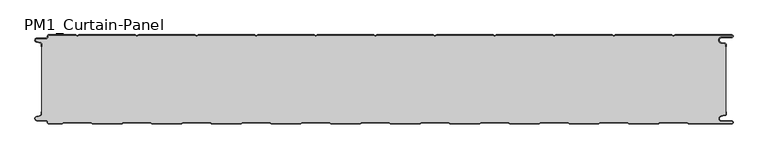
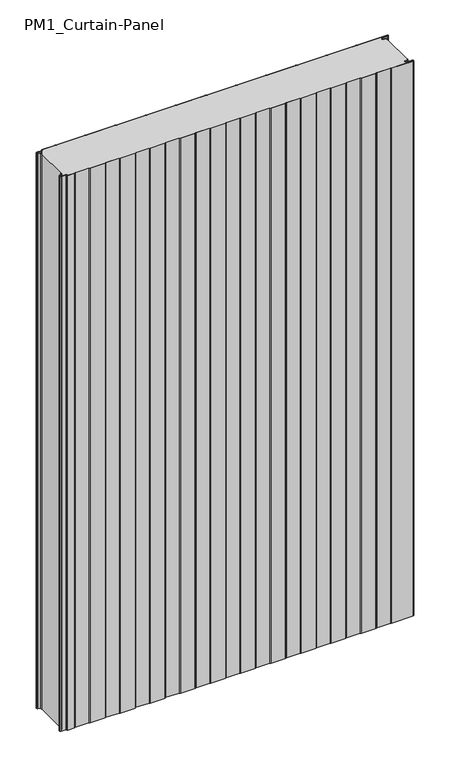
"""IFC4 building model written with IfcOpenShell, lengths in millimetres: plate geometry, PM1_Curtain-Panel : ACH_PM1_Stone-wool-Panel_150M."""

import ifcopenshell
import ifcopenshell.guid

model = None  # the IFC model being written
_history = None  # IfcOwnerHistory: only IFC2X3 demands one
_inside = {}  # id of a spatial element -> (the spatial element, [elements in it])
_under = {}  # id of a project, library or spatial element -> (it, [spatial elements below it])
_declared = {}  # id of a project -> (the project, [libraries it declares])
_typed = {}  # id of a type object -> (the type object, [elements of that type])
_made_of = {}  # id of a material, layer set ... -> (it, [elements and type objects made of it])


def new_model(schema):
    """Start an empty IFC model of exactly this schema.

    Asked for "IFC4X3", IfcOpenShell would pick the latest addendum, in which some entities
    have other attributes; the version numbers below select the first issue.
    IFC2X3 requires an IfcOwnerHistory on every rooted entity: one is made here for all.
    """
    global model, _history
    if schema == "IFC4X3":
        model = ifcopenshell.file(schema_version=(4, 3, 0, 0))
    else:
        model = ifcopenshell.file(schema=schema)
    _inside.clear()
    _under.clear()
    _declared.clear()
    _typed.clear()
    _made_of.clear()
    _history = None
    if model.schema == "IFC2X3":
        org = make("IfcOrganization", Name="unknown")
        user = make(
            "IfcPersonAndOrganization",
            ThePerson=make("IfcPerson", FamilyName="unknown"),
            TheOrganization=org,
        )
        app = make(
            "IfcApplication",
            ApplicationDeveloper=org,
            Version="unknown",
            ApplicationFullName="unknown",
            ApplicationIdentifier="unknown",
        )
        _history = make(
            "IfcOwnerHistory",
            OwningUser=user,
            OwningApplication=app,
            ChangeAction="ADDED",
            CreationDate=0,
        )
    return model


def make(cls, **values):
    """One entity of the class cls with the attributes given. An attribute that is None is left unset."""
    return model.create_entity(
        cls, **{name: value for name, value in values.items() if value is not None}
    )


def rooted(cls, **values):
    """An entity with a GlobalId (a new one), such as an element, a storey or a relation."""
    return make(cls, GlobalId=ifcopenshell.guid.new(), OwnerHistory=_history, **values)


def si_unit(unit_type, name, prefix=None):
    """IfcSIUnit, for example si_unit("LENGTHUNIT", "METRE", prefix="MILLI")."""
    return make("IfcSIUnit", UnitType=unit_type, Prefix=prefix, Name=name)


def assignment(units):
    """IfcUnitAssignment: the units of a project."""
    return None if units is None else make("IfcUnitAssignment", Units=units)


def point(xyz):
    """IfcCartesianPoint."""
    return None if xyz is None else make("IfcCartesianPoint", Coordinates=xyz)


def direction(xyz):
    """IfcDirection."""
    return None if xyz is None else make("IfcDirection", DirectionRatios=xyz)


def frame(location, z_axis=None, x_axis=None):
    """IfcAxis2Placement3D, a coordinate frame: its origin and axes. An axis left out is left unset."""
    return make(
        "IfcAxis2Placement3D",
        Location=point(location),
        Axis=direction(z_axis),
        RefDirection=direction(x_axis),
    )


def frame_2d(location, x_axis=None):
    """IfcAxis2Placement2D, a coordinate frame in the plane: its origin and x axis."""
    return make(
        "IfcAxis2Placement2D", Location=point(location), RefDirection=direction(x_axis)
    )


def origin():
    """The frame at (0, 0, 0) with its axes left unset."""
    return frame((0.0, 0.0, 0.0))


def origin_with_axes():
    """The frame at (0, 0, 0) with the z axis (0, 0, 1) and the x axis (1, 0, 0) written out."""
    return frame((0.0, 0.0, 0.0), z_axis=(0.0, 0.0, 1.0), x_axis=(1.0, 0.0, 0.0))


def place(relative_to, where):
    """IfcLocalPlacement: puts the frame where relative to a parent placement (None: the world)."""
    return make(
        "IfcLocalPlacement", PlacementRelTo=relative_to, RelativePlacement=where
    )


def context(
    kind, dimensions, precision=None, world=None, true_north=None, identifier=None
):
    """IfcGeometricRepresentationContext, for example the 3D "Model" context."""
    return make(
        "IfcGeometricRepresentationContext",
        ContextIdentifier=identifier,
        ContextType=kind,
        CoordinateSpaceDimension=dimensions,
        Precision=precision,
        WorldCoordinateSystem=world,
        TrueNorth=true_north,
    )


def project(units=None, contexts=None):
    """IfcProject with its units and contexts."""
    return rooted(
        "IfcProject",
        Name="project",
        RepresentationContexts=contexts,
        UnitsInContext=assignment(units),
    )


def spatial(cls, under=None, at=None, **own):
    """A site, building, storey or space (cls), placed at a placement, below another one or the project."""
    s = rooted(cls, ObjectPlacement=at, **own)
    if under is not None:
        _under.setdefault(under.id(), (under, []))[1].append(s)
    return s


def polyline(points):
    """IfcPolyline through the points."""
    return make("IfcPolyline", Points=[point(p) for p in points])


def circle_curve(where, radius):
    """IfcCircle in the frame where."""
    return make("IfcCircle", Position=where, Radius=radius)


def trimmed(basis, trim1, trim2, sense, master):
    """IfcTrimmedCurve: the piece of a basis curve between two trims."""
    return make(
        "IfcTrimmedCurve",
        BasisCurve=basis,
        Trim1=trim1,
        Trim2=trim2,
        SenseAgreement=sense,
        MasterRepresentation=master,
    )


def segment(curve, same_sense, transition):
    """IfcCompositeCurveSegment."""
    return make(
        "IfcCompositeCurveSegment",
        Transition=transition,
        SameSense=same_sense,
        ParentCurve=curve,
    )


def composite_curve(segments, self_intersect=None):
    """IfcCompositeCurve: segments joined end to end."""
    return make("IfcCompositeCurve", Segments=segments, SelfIntersect=self_intersect)


def outline(outer, holes=None, kind="AREA"):
    """IfcArbitraryClosedProfileDef: a profile drawn as a closed curve; with holes, ...WithVoids."""
    if holes is None:
        return make("IfcArbitraryClosedProfileDef", ProfileType=kind, OuterCurve=outer)
    return make(
        "IfcArbitraryProfileDefWithVoids",
        ProfileType=kind,
        OuterCurve=outer,
        InnerCurves=holes,
    )


def extrude(swept, where, along, depth):
    """IfcExtrudedAreaSolid: the profile swept, set in the frame where, extruded along a direction by depth."""
    return make(
        "IfcExtrudedAreaSolid",
        SweptArea=swept,
        Position=where,
        ExtrudedDirection=direction(along),
        Depth=depth,
    )


def shape(context_of_items, identifier, shape_type, items):
    """IfcShapeRepresentation: the items that make up one representation, for example the "Body"."""
    return make(
        "IfcShapeRepresentation",
        ContextOfItems=context_of_items,
        RepresentationIdentifier=identifier,
        RepresentationType=shape_type,
        Items=items,
    )


def source(mapping_origin, context_of_items, identifier, shape_type, items):
    """IfcRepresentationMap: a shape defined once, which mapped items show again and again."""
    return make(
        "IfcRepresentationMap",
        MappingOrigin=mapping_origin,
        MappedRepresentation=shape(context_of_items, identifier, shape_type, items),
    )


def transform(
    local_origin,
    x_axis=None,
    y_axis=None,
    z_axis=None,
    scale=None,
    scale2=None,
    scale3=None,
    uniform=True,
):
    """IfcCartesianTransformationOperator3D, or its non-uniform kind. x_axis, y_axis, z_axis: its Axis1, 2, 3."""
    if uniform:
        return make(
            "IfcCartesianTransformationOperator3D",
            Axis1=direction(x_axis),
            Axis2=direction(y_axis),
            LocalOrigin=point(local_origin),
            Scale=scale,
            Axis3=direction(z_axis),
        )
    return make(
        "IfcCartesianTransformationOperator3DnonUniform",
        Axis1=direction(x_axis),
        Axis2=direction(y_axis),
        LocalOrigin=point(local_origin),
        Scale=scale,
        Axis3=direction(z_axis),
        Scale2=scale2,
        Scale3=scale3,
    )


def mapped(mapping_source, mapping_target):
    """IfcMappedItem: shows the shape of a source again, moved by a transform."""
    return make(
        "IfcMappedItem", MappingSource=mapping_source, MappingTarget=mapping_target
    )


def made_of(thing, what):
    """Note that an element or type object is made of a material, layer set ...; save() writes the relation."""
    if what is not None:
        _made_of.setdefault(what.id(), (what, []))[1].append(thing)
    return thing


def element(
    cls,
    number,
    at=None,
    inside=None,
    cuts=None,
    type_object=None,
    material=None,
    context=None,
    identifier="Body",
    shape_type=None,
    held_by="IfcProductDefinitionShape",
    body=None,
    shapes=None,
    **own,
):
    """One element of the class cls, such as IfcWall. Its Tag is "e" and its number.

    at: its placement. inside: the storey or other place that contains it. cuts: it is an
    opening in that element (IfcRelVoidsElement). A single representation is given by context,
    identifier, shape_type and body (its items); several are given by shapes. held_by: the class
    of the entity that holds the representations. save() writes the other relations.
    """
    e = rooted(cls, Tag="e%d" % number, ObjectPlacement=at, **own)
    if body is not None:
        shapes = [shape(context, identifier, shape_type, body)]
    if shapes is not None:
        e.Representation = make(held_by, Representations=shapes)
    if inside is not None:
        _inside.setdefault(inside.id(), (inside, []))[1].append(e)
    if cuts is not None:
        rooted(
            "IfcRelVoidsElement", RelatingBuildingElement=cuts, RelatedOpeningElement=e
        )
    if type_object is not None:
        _typed.setdefault(type_object.id(), (type_object, []))[1].append(e)
    return made_of(e, material)


def aggregate(whole, parts):
    """IfcRelAggregates: a whole, such as a stair, and the parts it consists of."""
    return rooted("IfcRelAggregates", RelatingObject=whole, RelatedObjects=parts)


def save(model, path):
    """Write the relations noted so far, then the file.

    IfcRelAggregates (storeys below a building ...), IfcRelContainedInSpatialStructure (elements
    in a storey), IfcRelDefinesByType, IfcRelAssociatesMaterial and IfcRelDeclares: one each for
    every whole, place, type object, material and project.
    """
    for whole, parts in _under.values():
        aggregate(whole, parts)
    for where, things in _inside.values():
        rooted(
            "IfcRelContainedInSpatialStructure",
            RelatedElements=things,
            RelatingStructure=where,
        )
    for kind, things in _typed.values():
        rooted("IfcRelDefinesByType", RelatedObjects=things, RelatingType=kind)
    for what, things in _made_of.values():
        rooted("IfcRelAssociatesMaterial", RelatedObjects=things, RelatingMaterial=what)
    for by, libraries in _declared.values():
        rooted("IfcRelDeclares", RelatingContext=by, RelatedDefinitions=libraries)
    model.write(path)


def pm1_curtain_panel_da88d7a2(model_context):
    return source(origin(), model_context, "Body", "SweptSolid", [
        extrude(outline(composite_curve([segment(trimmed(circle_curve(frame_2d((-577.0, -15.878557)), 2.0), [point((-575.0, -15.878557))], [point((-576.5500978, -13.9298169))], True, "CARTESIAN"), True, "CONTINUOUS"), segment(polyline([(-576.5500978, -13.9298169), (-582.7098239, -12.507732)]), True, "CONTINUOUS"), segment(trimmed(circle_curve(frame_2d((-581.9, -9.0)), 3.6), [point((-582.7098239, -12.507732))], [point((-581.9, -5.4))], False, "CARTESIAN"), True, "CONTINUOUS"), segment(polyline([(-581.9, -5.4), (-566.4, -5.4)]), True, "CONTINUOUS"), segment(trimmed(circle_curve(frame_2d((-566.4, -3.4)), 2.0), [point((-566.4, -5.4))], [point((-564.4, -3.4))], True, "CARTESIAN"), True, "CONTINUOUS"), segment(polyline([(-564.4, -3.4), (-564.4, -2.0)]), True, "CONTINUOUS"), segment(trimmed(circle_curve(frame_2d((-562.4, -2.0)), 2.0), [point((-564.4, -2.0))], [point((-562.4, 0.0))], False, "CARTESIAN"), True, "CONTINUOUS"), segment(polyline([(-562.4, 0.0), (-517.0999995, 0.0), (-514.4, -1.5588455), (-511.7000005, 0.0), (-417.0999995, 0.0), (-414.4, -1.5588455), (-411.7000005, 0.0), (-317.0999995, 0.0), (-314.4, -1.5588455), (-311.7000005, 0.0), (-217.0999995, 0.0), (-214.4, -1.5588455), (-211.7000005, 0.0), (-117.0999995, 0.0), (-114.4, -1.5588455), (-111.7000005, 0.0), (-17.0999995, 0.0), (-14.4, -1.5588455), (-11.7000005, 0.0), (82.9000005, 0.0), (85.6, -1.5588455), (88.2999995, 0.0), (182.9000005, 0.0), (185.6, -1.5588455), (188.2999995, 0.0), (282.9000005, 0.0), (285.6, -1.5588455), (288.2999995, 0.0), (382.9000005, 0.0), (385.6, -1.5588455), (388.2999995, 0.0), (482.9000005, 0.0), (485.6, -1.5588455), (488.2999995, 0.0), (583.1, 0.0)]), True, "CONTINUOUS"), segment(trimmed(circle_curve(frame_2d((583.1, -2.5)), 2.5), [point((583.1, 0.0))], [point((583.1, -5.0))], False, "CARTESIAN"), True, "CONTINUOUS"), segment(polyline([(583.1, -5.0), (566.1, -5.0)]), True, "CONTINUOUS"), segment(trimmed(circle_curve(frame_2d((566.1, -9.0)), 4.0), [point((566.1, -5.0))], [point((565.405407, -12.939231))], True, "CARTESIAN"), True, "CONTINUOUS"), segment(polyline([(565.405407, -12.939231), (571.8514855, -14.0758491)]), True, "CONTINUOUS"), segment(trimmed(circle_curve(frame_2d((571.4, -16.6363492)), 2.6), [point((571.8514855, -14.0758491))], [point((574.0, -16.6363492))], False, "CARTESIAN"), True, "CONTINUOUS"), segment(polyline([(574.0, -16.6363492), (574.0, -20.0), (573.2, -20.0), (573.2, -16.6363492)]), True, "CONTINUOUS"), segment(trimmed(circle_curve(frame_2d((571.4, -16.6363492)), 1.8), [point((573.2, -16.6363492))], [point((571.7125669, -14.8636953))], True, "CARTESIAN"), True, "CONTINUOUS"), segment(polyline([(571.7125669, -14.8636953), (565.2664884, -13.7270772)]), True, "CONTINUOUS"), segment(trimmed(circle_curve(frame_2d((566.1, -9.0)), 4.8), [point((565.2664884, -13.7270772))], [point((566.1, -4.2))], False, "CARTESIAN"), True, "CONTINUOUS"), segment(polyline([(566.1, -4.2), (583.1, -4.2)]), True, "CONTINUOUS"), segment(trimmed(circle_curve(frame_2d((583.1, -2.5)), 1.7), [point((583.1, -4.2))], [point((583.1, -0.8))], True, "CARTESIAN"), True, "CONTINUOUS"), segment(polyline([(583.1, -0.8), (488.5143588, -0.8), (485.6, -2.482606), (482.6856412, -0.8), (388.5143588, -0.8), (385.6, -2.482606), (382.6856412, -0.8), (288.5143588, -0.8), (285.6, -2.482606), (282.6856412, -0.8), (188.5143588, -0.8), (185.6, -2.482606), (182.6856412, -0.8), (88.5143588, -0.8), (85.6, -2.482606), (82.6856412, -0.8), (-11.4856412, -0.8), (-14.4, -2.482606), (-17.3143588, -0.8), (-111.4856412, -0.8), (-114.4, -2.482606), (-117.3143588, -0.8), (-211.4856412, -0.8), (-214.4, -2.482606), (-217.3143588, -0.8), (-311.4856412, -0.8), (-314.4, -2.482606), (-317.3143588, -0.8), (-411.4856412, -0.8), (-414.4, -2.482606), (-417.3143588, -0.8), (-511.4856412, -0.8), (-514.4, -2.482606), (-517.3143588, -0.8), (-562.4, -0.8)]), True, "CONTINUOUS"), segment(trimmed(circle_curve(frame_2d((-562.4, -2.0)), 1.2), [point((-562.4, -0.8))], [point((-563.6, -2.0))], True, "CARTESIAN"), True, "CONTINUOUS"), segment(polyline([(-563.6, -2.0), (-563.6, -3.4)]), True, "CONTINUOUS"), segment(trimmed(circle_curve(frame_2d((-566.4, -3.4)), 2.8), [point((-563.6, -3.4))], [point((-566.4, -6.2))], False, "CARTESIAN"), True, "CONTINUOUS"), segment(polyline([(-566.4, -6.2), (-581.9, -6.2)]), True, "CONTINUOUS"), segment(trimmed(circle_curve(frame_2d((-581.9, -9.0)), 2.8), [point((-581.9, -6.2))], [point((-582.529863, -11.7282362))], True, "CARTESIAN"), True, "CONTINUOUS"), segment(polyline([(-582.529863, -11.7282362), (-576.370137, -13.150321)]), True, "CONTINUOUS"), segment(trimmed(circle_curve(frame_2d((-577.0, -15.878557)), 2.8), [point((-576.370137, -13.150321))], [point((-574.2, -15.878557))], False, "CARTESIAN"), True, "CONTINUOUS"), segment(polyline([(-574.2, -15.878557), (-574.2, -20.0), (-575.0, -20.0), (-575.0, -15.878557)]), True, "CONTINUOUS")], self_intersect=False)), origin_with_axes(), (0.0, 0.0, 1.0), 1945.7507136),
        extrude(outline(composite_curve([segment(polyline([(-574.2, -134.121443), (-574.2, -15.8785573)]), True, "CONTINUOUS"), segment(trimmed(circle_curve(frame_2d((-577.0, -15.8785573)), 2.8), [point((-574.2, -15.8785573))], [point((-576.370137, -13.1503212))], True, "CARTESIAN"), True, "CONTINUOUS"), segment(polyline([(-576.370137, -13.1503212), (-582.5298631, -11.7282362)]), True, "CONTINUOUS"), segment(trimmed(circle_curve(frame_2d((-581.9, -9.0)), 2.8), [point((-582.5298631, -11.7282362))], [point((-581.9, -6.2))], False, "CARTESIAN"), True, "CONTINUOUS"), segment(polyline([(-581.9, -6.2), (-566.4000001, -6.2)]), True, "CONTINUOUS"), segment(trimmed(circle_curve(frame_2d((-566.4000001, -3.4)), 2.8), [point((-566.4000001, -6.2))], [point((-563.6000001, -3.4))], True, "CARTESIAN"), True, "CONTINUOUS"), segment(polyline([(-563.6000001, -3.4), (-563.6000001, -2.0)]), True, "CONTINUOUS"), segment(trimmed(circle_curve(frame_2d((-562.4000001, -2.0)), 1.2), [point((-563.6000001, -2.0))], [point((-562.4000001, -0.8))], False, "CARTESIAN"), True, "CONTINUOUS"), segment(polyline([(-562.4000001, -0.8), (-517.3143589, -0.8), (-514.4000001, -2.482606), (-511.4856412, -0.8), (-417.3143589, -0.8), (-414.4000001, -2.482606), (-411.4856412, -0.8), (-317.3143589, -0.8), (-314.4000001, -2.482606), (-311.4856412, -0.8), (-217.3143589, -0.8), (-214.4000001, -2.482606), (-211.4856412, -0.8), (-117.3143589, -0.8), (-114.4000001, -2.482606), (-111.4856412, -0.8), (-17.3143589, -0.8), (-14.4000001, -2.482606), (-11.4856412, -0.8), (82.6856411, -0.8), (85.5999999, -2.482606), (88.5143588, -0.8), (182.6856411, -0.8), (185.5999999, -2.482606), (188.5143588, -0.8), (282.6856411, -0.8), (285.5999999, -2.482606), (288.5143588, -0.8), (382.6856411, -0.8), (385.5999999, -2.482606), (388.5143588, -0.8), (482.6856411, -0.8), (485.6, -2.482606), (488.5143588, -0.8), (583.1, -0.8)]), True, "CONTINUOUS"), segment(trimmed(circle_curve(frame_2d((583.1, -2.5)), 1.7), [point((583.1, -0.8))], [point((583.1, -4.2))], False, "CARTESIAN"), True, "CONTINUOUS"), segment(polyline([(583.1, -4.2), (566.1, -4.2)]), True, "CONTINUOUS"), segment(trimmed(circle_curve(frame_2d((566.1, -9.0)), 4.8), [point((566.1, -4.2))], [point((565.2664883, -13.7270771))], True, "CARTESIAN"), True, "CONTINUOUS"), segment(polyline([(565.2664883, -13.7270771), (571.7125668, -14.8636953)]), True, "CONTINUOUS"), segment(trimmed(circle_curve(frame_2d((571.4, -16.6363492)), 1.8), [point((571.7125668, -14.8636953))], [point((573.2, -16.6363492))], False, "CARTESIAN"), True, "CONTINUOUS"), segment(polyline([(573.2, -16.6363492), (573.2, -133.363652)]), True, "CONTINUOUS"), segment(trimmed(circle_curve(frame_2d((571.4, -133.363652)), 1.8), [point((573.2, -133.363652))], [point((571.7125666, -135.1363059))], False, "CARTESIAN"), True, "CONTINUOUS"), segment(polyline([(571.7125666, -135.1363059), (565.266489, -136.272923)]), True, "CONTINUOUS"), segment(trimmed(circle_curve(frame_2d((566.1, -141.0000002)), 4.7999999), [point((565.266489, -136.272923))], [point((566.1, -145.8000001))], True, "CARTESIAN"), True, "CONTINUOUS"), segment(polyline([(566.1, -145.8000001), (583.1, -145.8000001)]), True, "CONTINUOUS"), segment(trimmed(circle_curve(frame_2d((583.1, -147.5)), 1.7), [point((583.1, -145.8000001))], [point((583.1, -149.2))], False, "CARTESIAN"), True, "CONTINUOUS"), segment(polyline([(583.1, -149.2), (510.8105122, -149.2), (508.2124346, -147.7), (462.9837184, -147.7), (460.3856408, -149.2), (410.8105122, -149.2), (408.2124346, -147.7), (362.9837184, -147.7), (360.3856408, -149.2), (310.8105122, -149.2), (308.2124346, -147.7), (262.9837184, -147.7), (260.3856408, -149.2), (210.8105122, -149.2), (208.2124346, -147.7), (162.9837184, -147.7), (160.3856408, -149.2), (110.8105122, -149.2), (108.2124346, -147.7), (62.9837184, -147.7), (60.3856408, -149.2), (10.8105122, -149.2), (8.2124346, -147.7), (-37.0162816, -147.7), (-39.6143592, -149.2), (-89.1894878, -149.2), (-91.7875654, -147.7), (-137.0162816, -147.7), (-139.6143592, -149.2), (-189.1894878, -149.2), (-191.7875654, -147.7), (-237.0162816, -147.7), (-239.6143592, -149.2), (-289.1894878, -149.2), (-291.7875654, -147.7), (-337.0162816, -147.7), (-339.6143592, -149.2), (-389.1894878, -149.2), (-391.7875654, -147.7), (-437.0162816, -147.7), (-439.6143592, -149.2), (-489.1894878, -149.2), (-491.7875654, -147.7), (-537.0162816, -147.7), (-539.6143592, -149.2), (-562.4, -149.2)]), True, "CONTINUOUS"), segment(trimmed(circle_curve(frame_2d((-562.4, -148.0)), 1.2), [point((-562.4, -149.2))], [point((-563.6, -148.0))], False, "CARTESIAN"), True, "CONTINUOUS"), segment(polyline([(-563.6, -148.0), (-563.6, -146.5999998)]), True, "CONTINUOUS"), segment(trimmed(circle_curve(frame_2d((-566.4, -146.5999998)), 2.8), [point((-563.6, -146.5999998))], [point((-566.4, -143.7999998))], True, "CARTESIAN"), True, "CONTINUOUS"), segment(polyline([(-566.4, -143.7999998), (-581.9, -143.7999998)]), True, "CONTINUOUS"), segment(trimmed(circle_curve(frame_2d((-581.9, -141.0)), 2.7999998), [point((-581.9, -143.7999998))], [point((-582.529863, -138.271764))], False, "CARTESIAN"), True, "CONTINUOUS"), segment(polyline([(-582.529863, -138.271764), (-576.370137, -136.8496792)]), True, "CONTINUOUS"), segment(trimmed(circle_curve(frame_2d((-577.0, -134.121443)), 2.8), [point((-576.370137, -136.8496792))], [point((-574.2, -134.121443))], True, "CARTESIAN"), True, "CONTINUOUS")], self_intersect=False)), origin_with_axes(), (0.0, 0.0, 1.0), 1945.7507136),
        extrude(outline(composite_curve([segment(trimmed(circle_curve(frame_2d((-562.4, -148.0)), 2.0), [point((-562.4, -150.0))], [point((-564.4, -148.0))], False, "CARTESIAN"), True, "CONTINUOUS"), segment(polyline([(-564.4, -148.0), (-564.4, -146.6)]), True, "CONTINUOUS"), segment(trimmed(circle_curve(frame_2d((-566.4, -146.6)), 2.0), [point((-564.4, -146.6))], [point((-566.4, -144.6))], True, "CARTESIAN"), True, "CONTINUOUS"), segment(polyline([(-566.4, -144.6), (-581.9, -144.6)]), True, "CONTINUOUS"), segment(trimmed(circle_curve(frame_2d((-581.9, -141.0)), 3.6), [point((-581.9, -144.6))], [point((-582.7098239, -137.4922678))], False, "CARTESIAN"), True, "CONTINUOUS"), segment(polyline([(-582.7098239, -137.4922678), (-576.5500979, -136.070183)]), True, "CONTINUOUS"), segment(trimmed(circle_curve(frame_2d((-577.0, -134.121443)), 2.0), [point((-576.5500979, -136.070183))], [point((-575.0, -134.121443))], True, "CARTESIAN"), True, "CONTINUOUS"), segment(polyline([(-575.0, -134.121443), (-575.0, -130.0), (-574.2, -130.0), (-574.2, -134.121443)]), True, "CONTINUOUS"), segment(trimmed(circle_curve(frame_2d((-577.0, -134.121443)), 2.8), [point((-574.2, -134.121443))], [point((-576.370137, -136.8496792))], False, "CARTESIAN"), True, "CONTINUOUS"), segment(polyline([(-576.370137, -136.8496792), (-582.529863, -138.271764)]), True, "CONTINUOUS"), segment(trimmed(circle_curve(frame_2d((-581.9, -141.0)), 2.8), [point((-582.529863, -138.271764))], [point((-581.9, -143.8))], True, "CARTESIAN"), True, "CONTINUOUS"), segment(polyline([(-581.9, -143.8), (-566.4, -143.8)]), True, "CONTINUOUS"), segment(trimmed(circle_curve(frame_2d((-566.4, -146.6)), 2.8), [point((-566.4, -143.8))], [point((-563.6, -146.6))], False, "CARTESIAN"), True, "CONTINUOUS"), segment(polyline([(-563.6, -146.6), (-563.6, -148.0)]), True, "CONTINUOUS"), segment(trimmed(circle_curve(frame_2d((-562.4, -148.0)), 1.2), [point((-563.6, -148.0))], [point((-562.4, -149.2))], True, "CARTESIAN"), True, "CONTINUOUS"), segment(polyline([(-562.4, -149.2), (-539.6143592, -149.2), (-537.0162816, -147.7), (-491.7875654, -147.7), (-489.1894878, -149.2), (-439.6143592, -149.2), (-437.0162816, -147.7), (-391.7875654, -147.7), (-389.1894878, -149.2), (-339.6143592, -149.2), (-337.0162816, -147.7), (-291.7875654, -147.7), (-289.1894878, -149.2), (-239.6143592, -149.2), (-237.0162816, -147.7), (-191.7875654, -147.7), (-189.1894878, -149.2), (-139.6143592, -149.2), (-137.0162816, -147.7), (-91.7875654, -147.7), (-89.1894878, -149.2), (-39.6143592, -149.2), (-37.0162816, -147.7), (8.2124346, -147.7), (10.8105122, -149.2), (60.3856408, -149.2), (62.9837184, -147.7), (108.2124346, -147.7), (110.8105122, -149.2), (160.3856408, -149.2), (162.9837184, -147.7), (208.2124346, -147.7), (210.8105122, -149.2), (260.3856408, -149.2), (262.9837184, -147.7), (308.2124346, -147.7), (310.8105122, -149.2), (360.3856408, -149.2), (362.9837184, -147.7), (408.2124346, -147.7), (410.8105122, -149.2), (460.3856408, -149.2), (462.9837184, -147.7), (508.2124346, -147.7), (510.8105122, -149.2), (583.1, -149.2)]), True, "CONTINUOUS"), segment(trimmed(circle_curve(frame_2d((583.1, -147.5)), 1.7), [point((583.1, -149.2))], [point((583.1, -145.8))], True, "CARTESIAN"), True, "CONTINUOUS"), segment(polyline([(583.1, -145.8), (566.1, -145.8)]), True, "CONTINUOUS"), segment(trimmed(circle_curve(frame_2d((566.1, -141.0)), 4.8), [point((566.1, -145.8))], [point((565.266489, -136.2729227))], False, "CARTESIAN"), True, "CONTINUOUS"), segment(polyline([(565.266489, -136.2729227), (571.7125666, -135.1363058)]), True, "CONTINUOUS"), segment(trimmed(circle_curve(frame_2d((571.4, -133.363652)), 1.8), [point((571.7125666, -135.1363058))], [point((573.2, -133.363652))], True, "CARTESIAN"), True, "CONTINUOUS"), segment(polyline([(573.2, -133.363652), (573.2, -130.0), (574.0, -130.0), (574.0, -133.363652)]), True, "CONTINUOUS"), segment(trimmed(circle_curve(frame_2d((571.4, -133.363652)), 2.6), [point((574.0, -133.363652))], [point((571.8514851, -135.9241522))], False, "CARTESIAN"), True, "CONTINUOUS"), segment(polyline([(571.8514851, -135.9241522), (565.4054075, -137.0607691)]), True, "CONTINUOUS"), segment(trimmed(circle_curve(frame_2d((566.1, -141.0)), 4.0), [point((565.4054075, -137.0607691))], [point((566.1, -145.0))], True, "CARTESIAN"), True, "CONTINUOUS"), segment(polyline([(566.1, -145.0), (583.1, -145.0)]), True, "CONTINUOUS"), segment(trimmed(circle_curve(frame_2d((583.1, -147.5)), 2.5), [point((583.1, -145.0))], [point((583.1, -150.0))], False, "CARTESIAN"), True, "CONTINUOUS"), segment(polyline([(583.1, -150.0), (510.5961529, -150.0), (507.9980753, -148.5), (463.1980777, -148.5), (460.6000001, -150.0), (410.5961529, -150.0), (407.9980753, -148.5), (363.1980777, -148.5), (360.6000001, -150.0), (310.5961529, -150.0), (307.9980753, -148.5), (263.1980777, -148.5), (260.6000001, -150.0), (210.5961529, -150.0), (207.9980753, -148.5), (163.1980777, -148.5), (160.6000001, -150.0), (110.5961529, -150.0), (107.9980753, -148.5), (63.1980777, -148.5), (60.6000001, -150.0), (10.5961529, -150.0), (7.9980753, -148.5), (-36.8019223, -148.5), (-39.3999999, -150.0), (-89.4038471, -150.0), (-92.0019247, -148.5), (-136.8019223, -148.5), (-139.3999999, -150.0), (-189.4038471, -150.0), (-192.0019247, -148.5), (-236.8019223, -148.5), (-239.3999999, -150.0), (-289.4038471, -150.0), (-292.0019247, -148.5), (-336.8019223, -148.5), (-339.3999999, -150.0), (-389.4038471, -150.0), (-392.0019247, -148.5), (-436.8019223, -148.5), (-439.3999999, -150.0), (-489.4038471, -150.0), (-492.0019247, -148.5), (-536.8019223, -148.5), (-539.3999999, -150.0), (-562.4, -150.0)]), True, "CONTINUOUS")], self_intersect=False)), origin_with_axes(), (0.0, 0.0, 1.0), 1945.7507136),
    ])


if __name__ == "__main__":
    model = new_model("IFC4")
    model_context = context("Model", 3, world=origin())
    ifc_project = project(units=[si_unit("LENGTHUNIT", "METRE", prefix="MILLI")], contexts=[model_context])
    site = spatial("IfcSite", under=ifc_project)
    building = spatial("IfcBuilding", under=site)
    placement = place(None, origin())
    pm1_curtain_panel_shape = pm1_curtain_panel_da88d7a2(model_context)
    element("IfcPlate", 1, ObjectType="PM1_Curtain-Panel : ACH_PM1_Stone-wool-Panel_150M", at=placement, inside=building, context=model_context, shape_type="MappedRepresentation", body=[
        mapped(pm1_curtain_panel_shape, transform((0.0, 0.0, 0.0), x_axis=(1.0, 0.0, 0.0), y_axis=(0.0, 1.0, 0.0), z_axis=(0.0, 0.0, 1.0))),
    ])
    save(model, "model.ifc")
